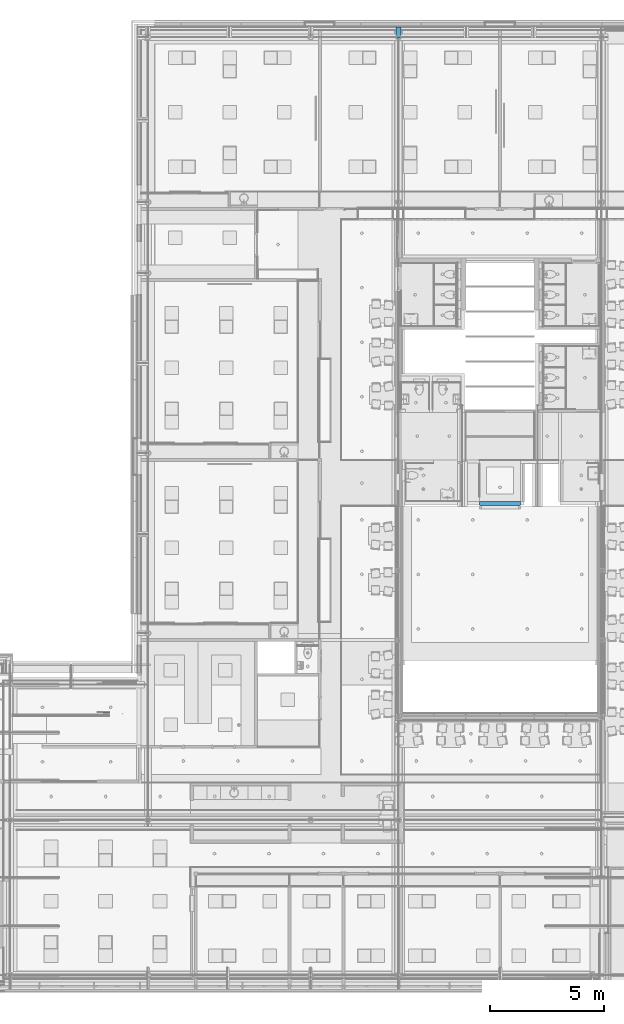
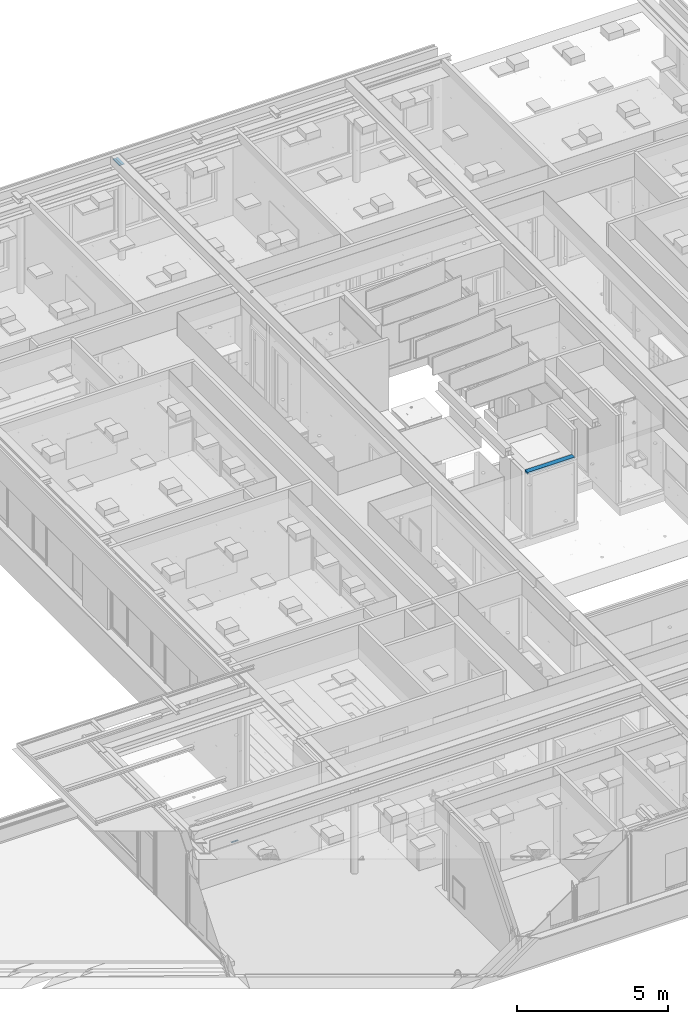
# One storey, part 18 of 260: 3 beams.
"""IFC2X3 building model written with IfcOpenShell, lengths in millimetres."""

from ifc_helpers import new_model, entity, si_unit, converted_unit, derived_unit, money_unit, direction, frame, origin_with_axes, place, context, subcontext, project, spatial, faceted_brep, material, type_object, element, save


model = new_model("IFC2X3")

# Units and contexts
model_context = context("Model", 3, precision=0.01, world=origin_with_axes(), true_north=direction((0.0, 1.0)))
plan_context = context("Plan", 3, precision=0.01, world=origin_with_axes(), true_north=direction((0.0, 1.0)))
body_context = subcontext(model_context, "Body", "Model", "MODEL_VIEW")
ifc_project = project(units=[si_unit("LENGTHUNIT", "METRE", prefix="MILLI"), si_unit("AREAUNIT", "SQUARE_METRE"), si_unit("VOLUMEUNIT", "CUBIC_METRE"), converted_unit("PLANEANGLEUNIT", "DEGREE", entity("IfcPlaneAngleMeasure", 0.0174532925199), si_unit("PLANEANGLEUNIT", "RADIAN"), dimensions=[0, 0, 0, 0, 0, 0, 0]), money_unit("EUR"), converted_unit("TIMEUNIT", "Year", entity("IfcTimeMeasure", 31556926.0), si_unit("TIMEUNIT", "SECOND"), dimensions=[0, 0, 1, 0, 0, 0, 0]), si_unit("MASSUNIT", "GRAM", prefix="KILO"), si_unit("THERMODYNAMICTEMPERATUREUNIT", "DEGREE_CELSIUS"), si_unit("LUMINOUSINTENSITYUNIT", "LUMEN"), si_unit("ENERGYUNIT", "JOULE", prefix="MEGA"), derived_unit("THERMALCONDUCTANCEUNIT", [(si_unit("POWERUNIT", "WATT"), 1), (si_unit("LENGTHUNIT", "METRE"), -1), (si_unit("THERMODYNAMICTEMPERATUREUNIT", "KELVIN"), -1)]), derived_unit("SPECIFICHEATCAPACITYUNIT", [(si_unit("ENERGYUNIT", "JOULE"), 1), (si_unit("MASSUNIT", "GRAM", prefix="KILO"), -1), (si_unit("THERMODYNAMICTEMPERATUREUNIT", "KELVIN"), -1)]), derived_unit("MASSDENSITYUNIT", [(si_unit("MASSUNIT", "GRAM", prefix="KILO"), 1), (si_unit("VOLUMEUNIT", "CUBIC_METRE"), -1)])], contexts=[model_context, plan_context])

# Site, building, storey
site_placement = place(None, origin_with_axes())
site = spatial("IfcSite", under=ifc_project, at=site_placement, Name="Site", CompositionType="ELEMENT")
building_placement = place(site_placement, origin_with_axes())
building = spatial("IfcBuilding", under=site, at=building_placement, Name="Naam gebouw", CompositionType="ELEMENT")
storey_placement = place(building_placement, frame((0.0, 0.0, 3960.0), z_axis=(0.0, 0.0, 1.0), x_axis=(1.0, 0.0, 0.0)))
storey = spatial("IfcBuildingStorey", under=building, at=storey_placement, Name="verdieping", CompositionType="ELEMENT", Elevation=3960.0)

# Beams
ifc_material_1 = material(Name="Metaal - Staal C")
beam_type_1 = type_object("IfcBeamType", Name="28 HEB200 200 x 200", PredefinedType="BEAM")
beam_1_placement = place(storey_placement, frame((35605.0, 46587.0, 3560.0), z_axis=(0.0, 0.0, 1.0), x_axis=(1.0, 0.0, 0.0)))
element("IfcBeam", 1, at=beam_1_placement, inside=storey, type_object=beam_type_1, material=ifc_material_1, Name="28_Balk-x", ObjectType="BEAM", context=body_context, shape_type="Brep", body=[
    faceted_brep([(-5.74999999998, 0.0, 200.0), (-5.75000000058, 450.000035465, 200.0), (-100.0, 450.0, 200.0), (-100.0, 0.0, 200.0), (-5.75000000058, 450.000035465, 185.0), (-5.74999999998, 0.0, 185.0), (-100.0, 450.0, 185.0), (-100.0, 0.0, 185.0)], [[[0, 1, 2, 3]], [[4, 1, 0, 5]], [[1, 4, 6, 2]], [[3, 2, 6, 7]], [[5, 0, 3, 7]], [[4, 5, 7, 6]]]),
    faceted_brep([(5.74999999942, 450.000035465, 185.0), (5.74999999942, 450.000035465, 200.0), (100.0, 450.0, 200.0), (100.0, 450.0, 185.0), (5.75000000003, 0.0, 200.0), (5.75000000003, 0.0, 185.0), (100.0, 0.0, 200.0), (100.0, 0.0, 185.0)], [[[0, 1, 2, 3]], [[4, 1, 0, 5]], [[1, 4, 6, 2]], [[7, 3, 2, 6]], [[5, 0, 3, 7]], [[4, 5, 7, 6]]]),
])
ifc_material_2 = material(Name="Metaal - RVS")
beam_type_2 = type_object("IfcBeamType", Name="Metaal - RVS 40 x 20", PredefinedType="BEAM")
beam_2_placement = place(storey_placement, frame((22615.0, 16870.0, -990.0), z_axis=(0.0, 0.0, 1.0), x_axis=(0.0, -1.0, 0.0)))
element("IfcBeam", 2, at=beam_2_placement, inside=storey, type_object=beam_type_2, material=ifc_material_2, Name="28_Balk-x", ObjectType="BEAM", context=body_context, shape_type="Brep", body=[
    faceted_brep([(-20.0, 6.45090710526, -10.0), (-20.0, 250.0, -10.0), (20.0, 250.0, -10.0), (20.0, 6.45090710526, -10.0), (-20.0, -3.03417735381e-05, 10.0), (-20.0, 250.0, 10.0), (20.0, 250.0, 10.0), (20.0, -3.03417735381e-05, 10.0)], [[[0, 1, 2, 3]], [[4, 5, 1, 0]], [[2, 1, 5, 6]], [[3, 2, 6, 7]], [[4, 0, 3, 7]], [[7, 6, 5, 4]]]),
])
ifc_material_3 = material(Name="32 Hout binnenkozijn oregon pine")
beam_type_3 = type_object("IfcBeamType", Name="32 Hout binnenkozijn oregon pine 190 x 75", PredefinedType="BEAM")
beam_3_placement = place(storey_placement, frame((39175.0, 26060.0, 2563.21871781), z_axis=(0.0, 0.0, 1.0), x_axis=(0.0, -1.0, 0.0)))
element("IfcBeam", 3, at=beam_3_placement, inside=storey, type_object=beam_type_3, material=ifc_material_3, Name="28_Balk-x", ObjectType="BEAM", context=body_context, shape_type="Brep", body=[
    faceted_brep([(-95.0, 0.0, -37.5), (-95.0, 1800.0, -37.5), (95.0, 1800.0, -37.5), (95.0, 0.0, -37.5), (-95.0, 0.0, 37.5), (-95.0, 1800.0, 37.5), (95.0, 1800.0, 37.5), (95.0, 0.0, 37.5)], [[[0, 1, 2, 3]], [[4, 5, 1, 0]], [[2, 1, 5, 6]], [[3, 2, 6, 7]], [[4, 0, 3, 7]], [[7, 6, 5, 4]]]),
])

save(model, "model.ifc")
